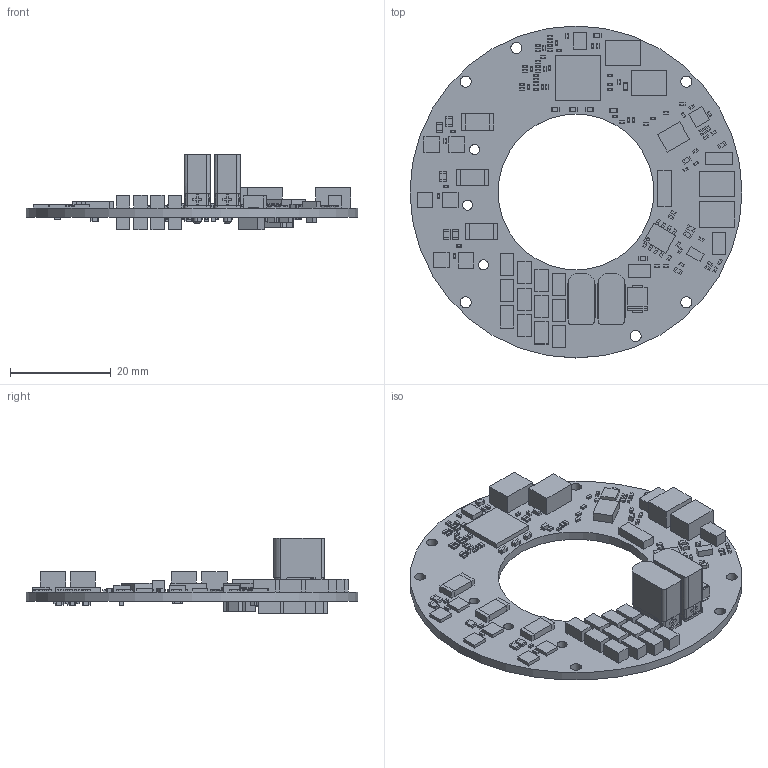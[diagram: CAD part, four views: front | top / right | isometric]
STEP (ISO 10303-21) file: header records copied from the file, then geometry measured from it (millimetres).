
FILE_DESCRIPTION(('Open CASCADE Model'),'2;1');
FILE_NAME('Open CASCADE Shape Model','2025-03-20T12:12:01',('Author'),( 'Open CASCADE'),'Open CASCADE STEP processor 7.5','Open CASCADE 7.5' ,'Unknown');
FILE_SCHEMA(('AUTOMOTIVE_DESIGN { 1 0 10303 214 1 1 1 1 }'));
Length unit declared in the file: millimetre
Products named in the file (305): PCB; Board; Open CASCADE STEP translator 7.5 1.1.1; R67; 6396807584; Extruded; 6396807424; U6; 6396802784; C43; 6184862624; 6184862144; R59; 6185491376; 6185488896; R55; 6287652640; 6287652160; R46; R43; R40; R35; R32; R4; 6184861904; 6396791664; C26; 6184861744; C22; R5; U1; 6299736544; R79; 6185487056; 6185492416; R78; R77; R76; R75; C87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
Assembly tree (694 placements, depth 4):
  PCB
    Board
      Open CASCADE STEP translator 7.5 1.1.1
    R67
      6396807584
        Extruded
      6396807424  x2
        Extruded
    U6
      6396802784
        Extruded
    C43
      6184862624  x2
        Extruded
      6184862144
        Extruded
    R59
      6185491376  x2
        Extruded
      6185488896
        Extruded
    R55
      6287652640  x2
        Extruded
      6287652160
        Extruded
    R46
      6185491376  x2
        Extruded
      6185488896
        Extruded
    R43
      6185491376  x2
        Extruded
      6185488896
        Extruded
    R40
      6185491376  x2
        Extruded
      6185488896
        Extruded
    R35
      6185491376  x2
        Extruded
      6185488896
        Extruded
    R32
      6185491376  x2
        Extruded
      6185488896
        Extruded
    R4
      6184861904  x2
        Extruded
      6396791664
        Extruded
    C26
      6184861904  x2
        Extruded
      6184861744
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Bounding box: 66 x 66 x 15.01 mm (x, y, z)
Volume: 7619.5 mm3; surface area: 10743.4 mm2
Topology: 456 solids, 456 shells, 3462 faces, 7404 edges, 4920 vertices
Faces by surface type: plane 3158, cylinder 236, bspline 60, cone 8
Full cylindrical faces by diameter (mm): 0.6 x1, 1.8 x4, 2 x3, 2.2 x6, 31 x1, 66 x1
Entity records: 33454 total; most frequent: CARTESIAN_POINT 7328, DIRECTION 4817, ORIENTED_EDGE 3582, EDGE_CURVE 1791, AXIS2_PLACEMENT_3D 1675, LINE 1467, VECTOR 1467, VERTEX_POINT 1186
